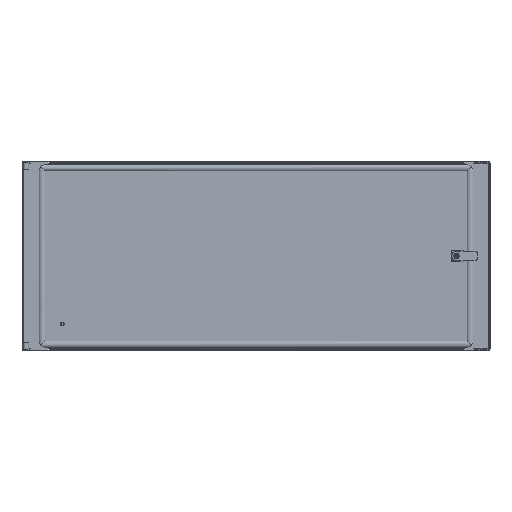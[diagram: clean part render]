
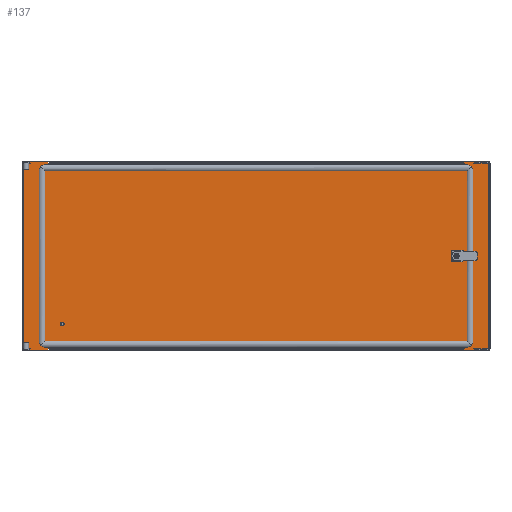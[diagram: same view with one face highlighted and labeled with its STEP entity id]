
A CAD part, top view. The second image highlights one B-rep face of the part: STEP entity #137.
In plain terms, the highlighted planar face has unit normal (0, 0, 1).
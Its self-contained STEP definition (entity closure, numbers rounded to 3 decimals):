
#137=ADVANCED_FACE('',(#702,#704,#706),#708,.T.);
#702=FACE_BOUND('',#703,.T.);
#703=EDGE_LOOP('',(#3435,#3436,#3437,#3438,#3439,#3440,#3441,#3442,#3443,#3444,#3445,
#3446,#3447,#3448,#3449,#3450,#3451,#3452,#3453,#3454,#3455,#3456,#3457,#3458,#3459,
#3460,#3461,#3462));
#704=FACE_BOUND('',#705,.T.);
#705=EDGE_LOOP('',(#3463));
#706=FACE_BOUND('',#707,.T.);
#707=EDGE_LOOP('',(#3464,#3465,#3466,#3467));
#708=PLANE('',#709);
#709=AXIS2_PLACEMENT_3D('',#710,#711,#712);
#710=CARTESIAN_POINT('',(0.,0.,2.));
#711=DIRECTION('',(0.,0.,1.));
#712=DIRECTION('',(1.,0.,0.));
#3435=ORIENTED_EDGE('',*,*,#5245,.F.);
#3436=ORIENTED_EDGE('',*,*,#5225,.F.);
#3437=ORIENTED_EDGE('',*,*,#5152,.F.);
#3438=ORIENTED_EDGE('',*,*,#5246,.F.);
#3439=ORIENTED_EDGE('',*,*,#5247,.F.);
#3440=ORIENTED_EDGE('',*,*,#5248,.F.);
#3441=ORIENTED_EDGE('',*,*,#5249,.F.);
#3442=ORIENTED_EDGE('',*,*,#5221,.F.);
#3443=ORIENTED_EDGE('',*,*,#5156,.F.);
#3444=ORIENTED_EDGE('',*,*,#5250,.F.);
#3445=ORIENTED_EDGE('',*,*,#5251,.F.);
#3446=ORIENTED_EDGE('',*,*,#5252,.F.);
#3447=ORIENTED_EDGE('',*,*,#5253,.F.);
#3448=ORIENTED_EDGE('',*,*,#5254,.F.);
#3449=ORIENTED_EDGE('',*,*,#5255,.F.);
#3450=ORIENTED_EDGE('',*,*,#5176,.F.);
#3451=ORIENTED_EDGE('',*,*,#5149,.F.);
#3452=ORIENTED_EDGE('',*,*,#5256,.T.);
#3453=ORIENTED_EDGE('',*,*,#5257,.T.);
#3454=ORIENTED_EDGE('',*,*,#5258,.T.);
#3455=ORIENTED_EDGE('',*,*,#5143,.F.);
#3456=ORIENTED_EDGE('',*,*,#5174,.F.);
#3457=ORIENTED_EDGE('',*,*,#5141,.F.);
#3458=ORIENTED_EDGE('',*,*,#5259,.T.);
#3459=ORIENTED_EDGE('',*,*,#5260,.T.);
#3460=ORIENTED_EDGE('',*,*,#5261,.T.);
#3461=ORIENTED_EDGE('',*,*,#5135,.F.);
#3462=ORIENTED_EDGE('',*,*,#5182,.F.);
#3463=ORIENTED_EDGE('',*,*,#5133,.F.);
#3464=ORIENTED_EDGE('',*,*,#5262,.F.);
#3465=ORIENTED_EDGE('',*,*,#5263,.F.);
#3466=ORIENTED_EDGE('',*,*,#5264,.F.);
#3467=ORIENTED_EDGE('',*,*,#5265,.F.);
#5133=EDGE_CURVE('',#6052,#6052,#6053,.T.);
#5135=EDGE_CURVE('',#6056,#6057,#6058,.T.);
#5141=EDGE_CURVE('',#6067,#6069,#6070,.T.);
#5143=EDGE_CURVE('',#6072,#6073,#6074,.T.);
#5149=EDGE_CURVE('',#6083,#6085,#6086,.T.);
#5152=EDGE_CURVE('',#6088,#6091,#6092,.T.);
#5156=EDGE_CURVE('',#6096,#6099,#6100,.T.);
#5174=EDGE_CURVE('',#6069,#6072,#6129,.T.);
#5176=EDGE_CURVE('',#6085,#6132,#6133,.T.);
#5182=EDGE_CURVE('',#6141,#6056,#6143,.T.);
#5221=EDGE_CURVE('',#6099,#6206,#6207,.T.);
#5225=EDGE_CURVE('',#6091,#6213,#6214,.T.);
#5245=EDGE_CURVE('',#6213,#6141,#6244,.T.);
#5246=EDGE_CURVE('',#6245,#6088,#6246,.T.);
#5247=EDGE_CURVE('',#6247,#6245,#6248,.T.);
#5248=EDGE_CURVE('',#6249,#6247,#6250,.T.);
#5249=EDGE_CURVE('',#6206,#6249,#6251,.T.);
#5250=EDGE_CURVE('',#6252,#6096,#6253,.T.);
#5251=EDGE_CURVE('',#6254,#6252,#6255,.T.);
#5252=EDGE_CURVE('',#6256,#6254,#6257,.T.);
#5253=EDGE_CURVE('',#6258,#6256,#6259,.T.);
#5254=EDGE_CURVE('',#6260,#6258,#6261,.T.);
#5255=EDGE_CURVE('',#6132,#6260,#6262,.T.);
#5256=EDGE_CURVE('',#6083,#6263,#6264,.T.);
#5257=EDGE_CURVE('',#6263,#6265,#6266,.T.);
#5258=EDGE_CURVE('',#6265,#6073,#6267,.T.);
#5259=EDGE_CURVE('',#6067,#6268,#6269,.T.);
#5260=EDGE_CURVE('',#6268,#6270,#6271,.T.);
#5261=EDGE_CURVE('',#6270,#6057,#6272,.T.);
#5262=EDGE_CURVE('',#6273,#6274,#6275,.T.);
#5263=EDGE_CURVE('',#6276,#6273,#6277,.T.);
#5264=EDGE_CURVE('',#6278,#6276,#6279,.T.);
#5265=EDGE_CURVE('',#6274,#6278,#6280,.T.);
#6052=VERTEX_POINT('',#7567);
#6053=CIRCLE('',#7568,0.5);
#6056=VERTEX_POINT('',#7577);
#6057=VERTEX_POINT('',#7578);
#6058=LINE('',#7579,#7580);
#6067=VERTEX_POINT('',#7598);
#6069=VERTEX_POINT('',#7602);
#6070=LINE('',#7603,#7604);
#6072=VERTEX_POINT('',#7609);
#6073=VERTEX_POINT('',#7610);
#6074=LINE('',#7611,#7612);
#6083=VERTEX_POINT('',#7630);
#6085=VERTEX_POINT('',#7634);
#6086=LINE('',#7635,#7636);
#6088=VERTEX_POINT('',#7641);
#6091=VERTEX_POINT('',#7646);
#6092=LINE('',#7647,#7648);
#6096=VERTEX_POINT('',#7657);
#6099=VERTEX_POINT('',#7662);
#6100=LINE('',#7663,#7664);
#6129=LINE('',#7762,#7763);
#6132=VERTEX_POINT('',#7770);
#6133=LINE('',#7771,#7772);
#6141=VERTEX_POINT('',#7803);
#6143=LINE('',#7820,#7821);
#6206=VERTEX_POINT('',#7979);
#6207=LINE('',#7980,#7981);
#6213=VERTEX_POINT('',#7996);
#6214=LINE('',#7997,#7998);
#6244=LINE('',#8080,#8081);
#6245=VERTEX_POINT('',#8083);
#6246=LINE('',#8084,#8085);
#6247=VERTEX_POINT('',#8087);
#6248=LINE('',#8088,#8089);
#6249=VERTEX_POINT('',#8091);
#6250=LINE('',#8092,#8093);
#6251=LINE('',#8095,#8096);
#6252=VERTEX_POINT('',#8098);
#6253=LINE('',#8099,#8100);
#6254=VERTEX_POINT('',#8102);
#6255=LINE('',#8103,#8104);
#6256=VERTEX_POINT('',#8106);
#6257=LINE('',#8107,#8108);
#6258=VERTEX_POINT('',#8110);
#6259=LINE('',#8111,#8112);
#6260=VERTEX_POINT('',#8114);
#6261=LINE('',#8115,#8116);
#6262=LINE('',#8118,#8119);
#6263=VERTEX_POINT('',#8121);
#6264=LINE('',#8122,#8123);
#6265=VERTEX_POINT('',#8125);
#6266=LINE('',#8126,#8127);
#6267=LINE('',#8129,#8130);
#6268=VERTEX_POINT('',#8132);
#6269=LINE('',#8133,#8134);
#6270=VERTEX_POINT('',#8136);
#6271=LINE('',#8137,#8138);
#6272=LINE('',#8140,#8141);
#6273=VERTEX_POINT('',#8143);
#6274=VERTEX_POINT('',#8144);
#6275=LINE('',#8145,#8146);
#6276=VERTEX_POINT('',#8148);
#6277=LINE('',#8149,#8150);
#6278=VERTEX_POINT('',#8152);
#6279=LINE('',#8153,#8154);
#6280=LINE('',#8156,#8157);
#7567=CARTESIAN_POINT('',(-407.7,-143.5,2.));
#7568=AXIS2_PLACEMENT_3D('',#7569,#7570,#7571);
#7569=CARTESIAN_POINT('',(-408.2,-143.5,2.));
#7570=DIRECTION('',(0.,0.,1.));
#7571=DIRECTION('',(-1.,0.,0.));
#7577=CARTESIAN_POINT('',(460.7,-195.1,2.));
#7578=CARTESIAN_POINT('',(458.7,-195.1,2.));
#7579=CARTESIAN_POINT('',(460.7,-195.1,2.));
#7580=VECTOR('',#7581,1.);
#7581=DIRECTION('',(-1.,0.,0.));
#7598=CARTESIAN_POINT('',(439.2,-195.1,2.));
#7602=CARTESIAN_POINT('',(437.2,-195.1,2.));
#7603=CARTESIAN_POINT('',(439.2,-195.1,2.));
#7604=VECTOR('',#7605,1.);
#7605=DIRECTION('',(-1.,0.,0.));
#7609=CARTESIAN_POINT('',(-436.2,-195.1,2.));
#7610=CARTESIAN_POINT('',(-438.2,-195.1,2.));
#7611=CARTESIAN_POINT('',(-436.2,-195.1,2.));
#7612=VECTOR('',#7613,1.);
#7613=DIRECTION('',(-1.,0.,0.));
#7630=CARTESIAN_POINT('',(-476.2,-195.1,2.));
#7634=CARTESIAN_POINT('',(-478.2,-195.1,2.));
#7635=CARTESIAN_POINT('',(-476.2,-195.1,2.));
#7636=VECTOR('',#7637,1.);
#7637=DIRECTION('',(-1.,0.,0.));
#7641=CARTESIAN_POINT('',(458.7,195.1,2.));
#7646=CARTESIAN_POINT('',(460.7,195.1,2.));
#7647=CARTESIAN_POINT('',(458.7,195.1,2.));
#7648=VECTOR('',#7649,1.);
#7649=DIRECTION('',(1.,0.,0.));
#7657=CARTESIAN_POINT('',(-438.2,195.1,2.));
#7662=CARTESIAN_POINT('',(-436.2,195.1,2.));
#7663=CARTESIAN_POINT('',(-438.2,195.1,2.));
#7664=VECTOR('',#7665,1.);
#7665=DIRECTION('',(1.,0.,0.));
#7762=CARTESIAN_POINT('',(437.2,-195.1,2.));
#7763=VECTOR('',#7764,1.);
#7764=DIRECTION('',(-1.,0.,0.));
#7770=CARTESIAN_POINT('',(-489.8,-195.1,2.));
#7771=CARTESIAN_POINT('',(-478.2,-195.1,2.));
#7772=VECTOR('',#7773,1.);
#7773=DIRECTION('',(-1.,0.,0.));
#7803=CARTESIAN_POINT('',(489.8,-195.1,2.));
#7820=CARTESIAN_POINT('',(489.8,-195.1,2.));
#7821=VECTOR('',#7822,1.);
#7822=DIRECTION('',(-1.,0.,0.));
#7979=CARTESIAN_POINT('',(437.2,195.1,2.));
#7980=CARTESIAN_POINT('',(-436.2,195.1,2.));
#7981=VECTOR('',#7982,1.);
#7982=DIRECTION('',(1.,0.,0.));
#7996=CARTESIAN_POINT('',(489.8,195.1,2.));
#7997=CARTESIAN_POINT('',(460.7,195.1,2.));
#7998=VECTOR('',#7999,1.);
#7999=DIRECTION('',(1.,0.,0.));
#8080=CARTESIAN_POINT('',(489.8,195.1,2.));
#8081=VECTOR('',#8082,1.);
#8082=DIRECTION('',(0.,-1.,0.));
#8083=CARTESIAN_POINT('',(458.7,198.5,2.));
#8084=CARTESIAN_POINT('',(458.7,198.5,2.));
#8085=VECTOR('',#8086,1.);
#8086=DIRECTION('',(0.,-1.,0.));
#8087=CARTESIAN_POINT('',(439.2,198.5,2.));
#8088=CARTESIAN_POINT('',(439.2,198.5,2.));
#8089=VECTOR('',#8090,1.);
#8090=DIRECTION('',(1.,0.,0.));
#8091=CARTESIAN_POINT('',(439.2,195.1,2.));
#8092=CARTESIAN_POINT('',(439.2,195.1,2.));
#8093=VECTOR('',#8094,1.);
#8094=DIRECTION('',(0.,1.,0.));
#8095=CARTESIAN_POINT('',(437.2,195.1,2.));
#8096=VECTOR('',#8097,1.);
#8097=DIRECTION('',(1.,0.,0.));
#8098=CARTESIAN_POINT('',(-438.2,198.5,2.));
#8099=CARTESIAN_POINT('',(-438.2,198.5,2.));
#8100=VECTOR('',#8101,1.);
#8101=DIRECTION('',(0.,-1.,0.));
#8102=CARTESIAN_POINT('',(-476.2,198.5,2.));
#8103=CARTESIAN_POINT('',(-476.2,198.5,2.));
#8104=VECTOR('',#8105,1.);
#8105=DIRECTION('',(1.,0.,0.));
#8106=CARTESIAN_POINT('',(-476.2,195.1,2.));
#8107=CARTESIAN_POINT('',(-476.2,195.1,2.));
#8108=VECTOR('',#8109,1.);
#8109=DIRECTION('',(0.,1.,0.));
#8110=CARTESIAN_POINT('',(-478.2,195.1,2.));
#8111=CARTESIAN_POINT('',(-478.2,195.1,2.));
#8112=VECTOR('',#8113,1.);
#8113=DIRECTION('',(1.,0.,0.));
#8114=CARTESIAN_POINT('',(-489.8,195.1,2.));
#8115=CARTESIAN_POINT('',(-489.8,195.1,2.));
#8116=VECTOR('',#8117,1.);
#8117=DIRECTION('',(1.,0.,0.));
#8118=CARTESIAN_POINT('',(-489.8,-195.1,2.));
#8119=VECTOR('',#8120,1.);
#8120=DIRECTION('',(0.,1.,0.));
#8121=CARTESIAN_POINT('',(-476.2,-198.5,2.));
#8122=CARTESIAN_POINT('',(-476.2,-195.1,2.));
#8123=VECTOR('',#8124,1.);
#8124=DIRECTION('',(0.,-1.,0.));
#8125=CARTESIAN_POINT('',(-438.2,-198.5,2.));
#8126=CARTESIAN_POINT('',(-476.2,-198.5,2.));
#8127=VECTOR('',#8128,1.);
#8128=DIRECTION('',(1.,0.,0.));
#8129=CARTESIAN_POINT('',(-438.2,-198.5,2.));
#8130=VECTOR('',#8131,1.);
#8131=DIRECTION('',(0.,1.,0.));
#8132=CARTESIAN_POINT('',(439.2,-198.5,2.));
#8133=CARTESIAN_POINT('',(439.2,-195.1,2.));
#8134=VECTOR('',#8135,1.);
#8135=DIRECTION('',(0.,-1.,0.));
#8136=CARTESIAN_POINT('',(458.7,-198.5,2.));
#8137=CARTESIAN_POINT('',(439.2,-198.5,2.));
#8138=VECTOR('',#8139,1.);
#8139=DIRECTION('',(1.,0.,0.));
#8140=CARTESIAN_POINT('',(458.7,-198.5,2.));
#8141=VECTOR('',#8142,1.);
#8142=DIRECTION('',(0.,1.,0.));
#8143=CARTESIAN_POINT('',(433.2,-10.6,2.));
#8144=CARTESIAN_POINT('',(433.2,10.6,2.));
#8145=CARTESIAN_POINT('',(433.2,-10.6,2.));
#8146=VECTOR('',#8147,1.);
#8147=DIRECTION('',(0.,1.,0.));
#8148=CARTESIAN_POINT('',(412.,-10.6,2.));
#8149=CARTESIAN_POINT('',(412.,-10.6,2.));
#8150=VECTOR('',#8151,1.);
#8151=DIRECTION('',(1.,0.,0.));
#8152=CARTESIAN_POINT('',(412.,10.6,2.));
#8153=CARTESIAN_POINT('',(412.,10.6,2.));
#8154=VECTOR('',#8155,1.);
#8155=DIRECTION('',(0.,-1.,0.));
#8156=CARTESIAN_POINT('',(433.2,10.6,2.));
#8157=VECTOR('',#8158,1.);
#8158=DIRECTION('',(-1.,0.,0.));
